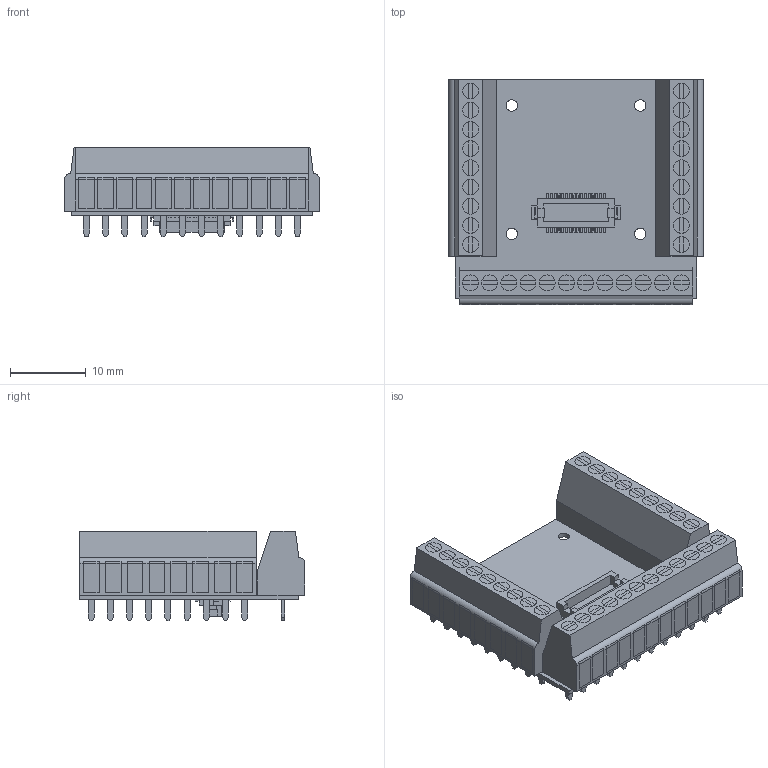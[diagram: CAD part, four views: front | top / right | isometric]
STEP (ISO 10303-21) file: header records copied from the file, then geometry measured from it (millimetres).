
FILE_DESCRIPTION(('FreeCAD Model'),'2;1');
FILE_NAME('/home/devy/MEGA/TinyCircuits/Assets/BoardsANDBoardModels_2/Shields/TinyCircuits-TinyShield-Proto_Term-ASD2005/cad/TinyShield_PROTO_TERMINAL_ASD2005_REV2-STEP.step','2020-07-22T02:20:32',('Author'), (''),'Open CASCADE STEP processor 7.4','FreeCAD','Unknown');
FILE_SCHEMA(('AUTOMOTIVE_DESIGN { 1 0 10303 214 1 1 1 1 }'));
Products named in the file (1): TinyShield_PROTO_TERMINAL_ASD2005_REV2-STEP
Bounding box: 33.74 x 29.9 x 11.9 mm (x, y, z)
Volume: 8374 mm3; surface area: 10370.7 mm2
Topology: 268 solids, 268 shells, 3004 faces, 6918 edges, 4574 vertices
Faces by surface type: plane 2618, cylinder 386
Full cylindrical faces by diameter (mm): 0.5 x8, 0.652 x8, 1.302 x180, 1.502 x8, 1.95 x120
Entity records: 193601 total; most frequent: CARTESIAN_POINT 31079, DIRECTION 27142, LINE 18132, VECTOR 18132, ORIENTED_EDGE 13836, PCURVE 13836, DEFINITIONAL_REPRESENTATION 13836, EDGE_CURVE 6918
